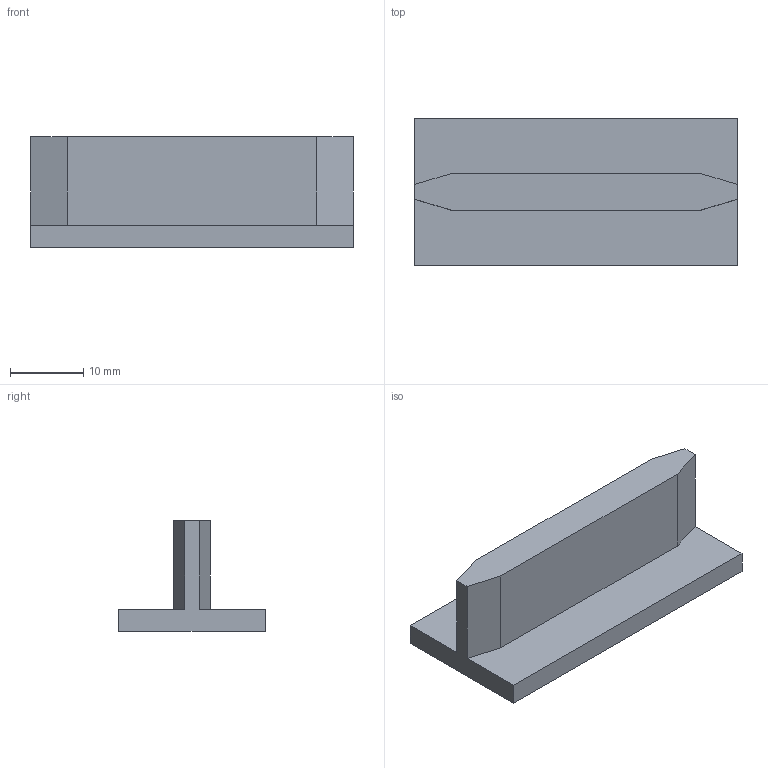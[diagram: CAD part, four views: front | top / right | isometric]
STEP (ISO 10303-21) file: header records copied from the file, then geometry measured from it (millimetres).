
FILE_DESCRIPTION(('STEP AP242'),'1');
FILE_NAME('OPO_65.082.75_volu_schn_3d.stp','2026-01-31T05:39:46',(' '),(' '),'Spatial InterOp 3D',' ',' ');
FILE_SCHEMA(('AP242_MANAGED_MODEL_BASED_3D_ENGINEERING_MIM_LF {1 0 10303 442 1 1 4}'));
Length unit declared in the file: millimetre
Products named in the file (1): 1
Bounding box: 44 x 20 x 15 mm (x, y, z)
Volume: 10200 mm3; surface area: 6517.1 mm2
Topology: 2 solids, 2 shells, 112 faces, 554 edges, 712 vertices
Faces by surface type: plane 72, cylinder 40
Entity records: 7527 total; most frequent: DIRECTION 904, CARTESIAN_POINT 865, ORIENTED_EDGE 592, LINE 434, VECTOR 434, STYLED_ITEM 370, PRESENTATION_STYLE_ASSIGNMENT 370, COLOUR_RGB 370
